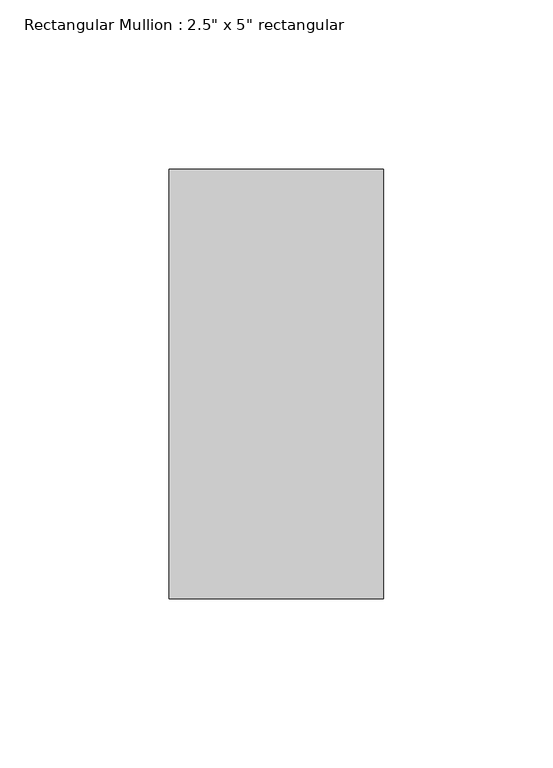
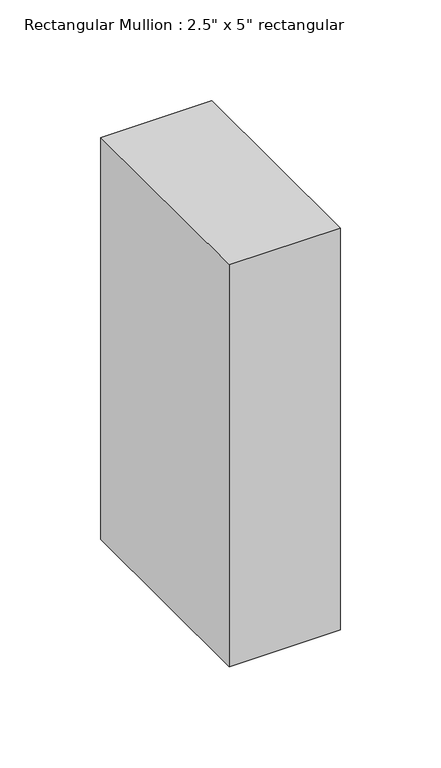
"""IFC4 building model written with IfcOpenShell, lengths in millimetres: member geometry."""

from ifc_helpers import new_model, si_unit, frame, origin, place, context, project, spatial, polyline, outline, extrude, source, transform, mapped, element, save


def member_44db00b7(model_context):
    return source(origin(), model_context, "Body", "SweptSolid", [
        extrude(outline(polyline([(31.75, 63.5), (31.75, -63.5), (-31.75, -63.5), (-31.75, 63.5), (31.75, 63.5)])), frame((0.0, 0.0, -243.2414708), z_axis=(0.0, 0.0, 1.0), x_axis=(1.0, 0.0, 0.0)), (0.0, 0.0, 1.0), 243.2414708),
    ])


if __name__ == "__main__":
    model = new_model("IFC4")
    model_context = context("Model", 3, world=origin())
    ifc_project = project(units=[si_unit("LENGTHUNIT", "METRE", prefix="MILLI")], contexts=[model_context])
    site = spatial("IfcSite", under=ifc_project)
    building = spatial("IfcBuilding", under=site)
    placement = place(None, origin())
    member_shape = member_44db00b7(model_context)
    element("IfcMember", 1, ObjectType="Rectangular Mullion : 2.5\" x 5\" rectangular", at=placement, inside=building, context=model_context, shape_type="MappedRepresentation", body=[
        mapped(member_shape, transform((0.0, 0.0, 0.0), x_axis=(1.0, 0.0, 0.0), y_axis=(0.0, 1.0, 0.0), z_axis=(0.0, 0.0, 1.0))),
    ])
    save(model, "model.ifc")
